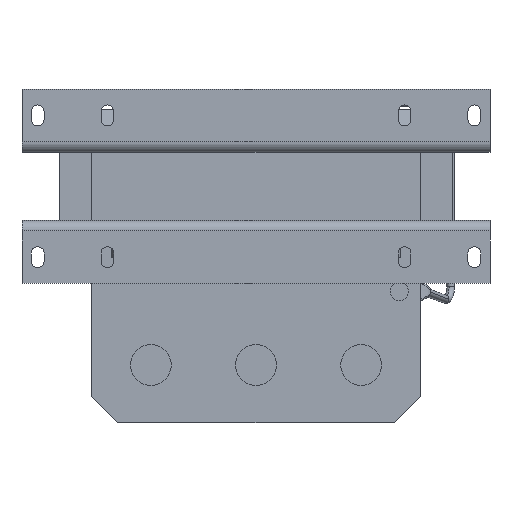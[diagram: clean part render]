
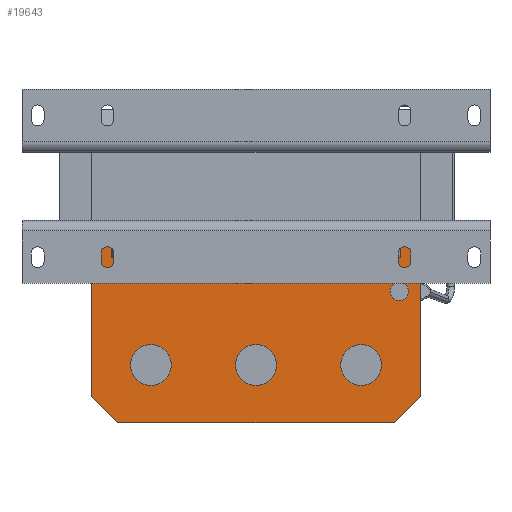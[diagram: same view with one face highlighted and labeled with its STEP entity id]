
A CAD part, front view. The second image highlights one B-rep face of the part: STEP entity #19643.
In plain terms, the highlighted planar face has unit normal (0, -1, 0).
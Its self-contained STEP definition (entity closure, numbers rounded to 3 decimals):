
#39 = EDGE_LOOP ( 'NONE', ( #20488, #7409 ) ) ;
#225 = CARTESIAN_POINT ( 'NONE',  ( 62.5, 27., -18.95 ) ) ;
#327 = CARTESIAN_POINT ( 'NONE',  ( 0., 27., -75.7 ) ) ;
#616 = FACE_BOUND ( 'NONE', #39, .T. ) ;
#878 = DIRECTION ( 'NONE',  ( 0., -1., 0. ) ) ;
#886 = CARTESIAN_POINT ( 'NONE',  ( 54.5, 27., -39.95 ) ) ;
#1084 = CARTESIAN_POINT ( 'NONE',  ( -62.5, 27., -79.95 ) ) ;
#1093 = CARTESIAN_POINT ( 'NONE',  ( 52.5, 27., -89.95 ) ) ;
#1337 = CARTESIAN_POINT ( 'NONE',  ( 54.5, 27., -39.95 ) ) ;
#1433 = CARTESIAN_POINT ( 'NONE',  ( 62.5, 27., -14.95 ) ) ;
#1452 = LINE ( 'NONE', #1093, #22521 ) ;
#1473 = CARTESIAN_POINT ( 'NONE',  ( 62.5, 27., -89.95 ) ) ;
#1637 = CIRCLE ( 'NONE', #12747, 3.5 ) ;
#1688 = DIRECTION ( 'NONE',  ( 0., 0., 1. ) ) ;
#1690 = CIRCLE ( 'NONE', #15071, 7.75 ) ;
#1792 = AXIS2_PLACEMENT_3D ( 'NONE', #20529, #13445, #17396 ) ;
#1977 = CIRCLE ( 'NONE', #18078, 7.75 ) ;
#2140 = CIRCLE ( 'NONE', #21690, 3.5 ) ;
#2283 = FACE_OUTER_BOUND ( 'NONE', #5912, .T. ) ;
#2528 = FACE_BOUND ( 'NONE', #8369, .T. ) ;
#2931 = CARTESIAN_POINT ( 'NONE',  ( 40., 27., -60.2 ) ) ;
#3643 = DIRECTION ( 'NONE',  ( 0.707, 0., -0.707 ) ) ;
#3654 = CIRCLE ( 'NONE', #23199, 7.75 ) ;
#4003 = ORIENTED_EDGE ( 'NONE', *, *, #8204, .F. ) ;
#4184 = VERTEX_POINT ( 'NONE', #15341 ) ;
#4233 = DIRECTION ( 'NONE',  ( 0., 0., 1. ) ) ;
#4281 = VERTEX_POINT ( 'NONE', #327 ) ;
#4578 = DIRECTION ( 'NONE',  ( 0., 0., 1. ) ) ;
#4892 = EDGE_CURVE ( 'NONE', #21038, #11203, #16481, .T. ) ;
#5031 = VERTEX_POINT ( 'NONE', #22583 ) ;
#5745 = CARTESIAN_POINT ( 'NONE',  ( 0., 27., -67.95 ) ) ;
#5912 = EDGE_LOOP ( 'NONE', ( #23182, #9524, #14444, #12553, #6842, #4003 ) ) ;
#6116 = FACE_BOUND ( 'NONE', #9073, .T. ) ;
#6262 = DIRECTION ( 'NONE',  ( 0., -1., 0. ) ) ;
#6802 = DIRECTION ( 'NONE',  ( 0., 0., 1. ) ) ;
#6842 = ORIENTED_EDGE ( 'NONE', *, *, #4892, .T. ) ;
#7147 = EDGE_CURVE ( 'NONE', #4184, #12250, #3654, .T. ) ;
#7409 = ORIENTED_EDGE ( 'NONE', *, *, #7147, .F. ) ;
#8204 = EDGE_CURVE ( 'NONE', #21532, #11203, #17916, .T. ) ;
#8284 = ORIENTED_EDGE ( 'NONE', *, *, #19825, .F. ) ;
#8369 = EDGE_LOOP ( 'NONE', ( #20854, #22488 ) ) ;
#8778 = DIRECTION ( 'NONE',  ( -1., 0., 0. ) ) ;
#9073 = EDGE_LOOP ( 'NONE', ( #13270, #22253 ) ) ;
#9172 = CIRCLE ( 'NONE', #15276, 7.75 ) ;
#9177 = DIRECTION ( 'NONE',  ( 0., 0., -1. ) ) ;
#9261 = EDGE_CURVE ( 'NONE', #23454, #21038, #23438, .T. ) ;
#9383 = CARTESIAN_POINT ( 'NONE',  ( 52.5, 27., -89.95 ) ) ;
#9524 = ORIENTED_EDGE ( 'NONE', *, *, #16504, .F. ) ;
#9569 = VERTEX_POINT ( 'NONE', #20552 ) ;
#9611 = EDGE_CURVE ( 'NONE', #5031, #22024, #1637, .T. ) ;
#9776 = VECTOR ( 'NONE', #8778, 1000. ) ;
#9849 = PLANE ( 'NONE',  #1792 ) ;
#10067 = FACE_BOUND ( 'NONE', #22199, .T. ) ;
#10188 = EDGE_CURVE ( 'NONE', #11246, #11684, #1977, .T. ) ;
#10531 = LINE ( 'NONE', #18092, #20620 ) ;
#11184 = DIRECTION ( 'NONE',  ( 0., 0., 1. ) ) ;
#11194 = CARTESIAN_POINT ( 'NONE',  ( -62.5, 27., -79.95 ) ) ;
#11203 = VERTEX_POINT ( 'NONE', #14931 ) ;
#11246 = VERTEX_POINT ( 'NONE', #21069 ) ;
#11665 = VECTOR ( 'NONE', #9177, 1000. ) ;
#11684 = VERTEX_POINT ( 'NONE', #21741 ) ;
#11864 = CARTESIAN_POINT ( 'NONE',  ( -62.5, 27., -18.95 ) ) ;
#12134 = CIRCLE ( 'NONE', #17876, 7.75 ) ;
#12153 = DIRECTION ( 'NONE',  ( 0., -1., 0. ) ) ;
#12250 = VERTEX_POINT ( 'NONE', #2931 ) ;
#12553 = ORIENTED_EDGE ( 'NONE', *, *, #9261, .T. ) ;
#12664 = EDGE_CURVE ( 'NONE', #22236, #23454, #10531, .T. ) ;
#12747 = AXIS2_PLACEMENT_3D ( 'NONE', #1337, #12153, #4578 ) ;
#13187 = VECTOR ( 'NONE', #14310, 1000. ) ;
#13270 = ORIENTED_EDGE ( 'NONE', *, *, #23680, .F. ) ;
#13351 = CARTESIAN_POINT ( 'NONE',  ( 54.5, 27., -43.45 ) ) ;
#13445 = DIRECTION ( 'NONE',  ( 0., 1., 0. ) ) ;
#13901 = EDGE_CURVE ( 'NONE', #9569, #4281, #12134, .T. ) ;
#13964 = CARTESIAN_POINT ( 'NONE',  ( -62.5, 27., -14.95 ) ) ;
#13989 = CARTESIAN_POINT ( 'NONE',  ( 0., 27., -67.95 ) ) ;
#14310 = DIRECTION ( 'NONE',  ( 0., 0., -1. ) ) ;
#14444 = ORIENTED_EDGE ( 'NONE', *, *, #12664, .T. ) ;
#14931 = CARTESIAN_POINT ( 'NONE',  ( -52.5, 27., -89.95 ) ) ;
#15071 = AXIS2_PLACEMENT_3D ( 'NONE', #15504, #6262, #4233 ) ;
#15276 = AXIS2_PLACEMENT_3D ( 'NONE', #5745, #18126, #1688 ) ;
#15341 = CARTESIAN_POINT ( 'NONE',  ( 40., 27., -75.7 ) ) ;
#15502 = DIRECTION ( 'NONE',  ( 0., 0., 1. ) ) ;
#15504 = CARTESIAN_POINT ( 'NONE',  ( 40., 27., -67.95 ) ) ;
#15724 = EDGE_CURVE ( 'NONE', #12250, #4184, #1690, .T. ) ;
#16481 = LINE ( 'NONE', #11194, #20874 ) ;
#16504 = EDGE_CURVE ( 'NONE', #22236, #22313, #19655, .T. ) ;
#17396 = DIRECTION ( 'NONE',  ( 0., 0., 1. ) ) ;
#17876 = AXIS2_PLACEMENT_3D ( 'NONE', #13989, #23235, #6802 ) ;
#17916 = LINE ( 'NONE', #1473, #9776 ) ;
#17929 = ORIENTED_EDGE ( 'NONE', *, *, #13901, .F. ) ;
#17984 = DIRECTION ( 'NONE',  ( -1., 0., 0. ) ) ;
#18003 = DIRECTION ( 'NONE',  ( 0.707, 0., 0.707 ) ) ;
#18078 = AXIS2_PLACEMENT_3D ( 'NONE', #22609, #19240, #19010 ) ;
#18092 = CARTESIAN_POINT ( 'NONE',  ( 62.5, 27., -18.95 ) ) ;
#18109 = EDGE_CURVE ( 'NONE', #21532, #22313, #1452, .T. ) ;
#18126 = DIRECTION ( 'NONE',  ( 0., -1., 0. ) ) ;
#18497 = CARTESIAN_POINT ( 'NONE',  ( -40., 27., -67.95 ) ) ;
#18684 = EDGE_CURVE ( 'NONE', #22024, #5031, #2140, .T. ) ;
#19010 = DIRECTION ( 'NONE',  ( 0., 0., 1. ) ) ;
#19108 = CARTESIAN_POINT ( 'NONE',  ( 40., 27., -67.95 ) ) ;
#19240 = DIRECTION ( 'NONE',  ( 0., -1., 0. ) ) ;
#19643 = ADVANCED_FACE ( 'NONE', ( #2528, #6116, #10067, #616, #2283 ), #9849, .F. ) ;
#19655 = LINE ( 'NONE', #1433, #11665 ) ;
#19825 = EDGE_CURVE ( 'NONE', #4281, #9569, #9172, .T. ) ;
#20061 = DIRECTION ( 'NONE',  ( 0., -1., 0. ) ) ;
#20488 = ORIENTED_EDGE ( 'NONE', *, *, #15724, .F. ) ;
#20529 = CARTESIAN_POINT ( 'NONE',  ( 62.5, 27., -14.95 ) ) ;
#20547 = CIRCLE ( 'NONE', #20928, 7.75 ) ;
#20552 = CARTESIAN_POINT ( 'NONE',  ( 0., 27., -60.2 ) ) ;
#20620 = VECTOR ( 'NONE', #17984, 1000. ) ;
#20682 = DIRECTION ( 'NONE',  ( 0., -1., 0. ) ) ;
#20854 = ORIENTED_EDGE ( 'NONE', *, *, #9611, .F. ) ;
#20874 = VECTOR ( 'NONE', #3643, 1000. ) ;
#20928 = AXIS2_PLACEMENT_3D ( 'NONE', #18497, #20061, #11184 ) ;
#21038 = VERTEX_POINT ( 'NONE', #1084 ) ;
#21069 = CARTESIAN_POINT ( 'NONE',  ( -40., 27., -75.7 ) ) ;
#21532 = VERTEX_POINT ( 'NONE', #9383 ) ;
#21690 = AXIS2_PLACEMENT_3D ( 'NONE', #886, #20682, #22838 ) ;
#21741 = CARTESIAN_POINT ( 'NONE',  ( -40., 27., -60.2 ) ) ;
#21947 = CARTESIAN_POINT ( 'NONE',  ( 62.5, 27., -79.95 ) ) ;
#22024 = VERTEX_POINT ( 'NONE', #13351 ) ;
#22199 = EDGE_LOOP ( 'NONE', ( #17929, #8284 ) ) ;
#22236 = VERTEX_POINT ( 'NONE', #225 ) ;
#22253 = ORIENTED_EDGE ( 'NONE', *, *, #10188, .F. ) ;
#22313 = VERTEX_POINT ( 'NONE', #21947 ) ;
#22488 = ORIENTED_EDGE ( 'NONE', *, *, #18684, .F. ) ;
#22521 = VECTOR ( 'NONE', #18003, 1000. ) ;
#22583 = CARTESIAN_POINT ( 'NONE',  ( 54.5, 27., -36.45 ) ) ;
#22609 = CARTESIAN_POINT ( 'NONE',  ( -40., 27., -67.95 ) ) ;
#22838 = DIRECTION ( 'NONE',  ( 0., 0., 1. ) ) ;
#23182 = ORIENTED_EDGE ( 'NONE', *, *, #18109, .T. ) ;
#23199 = AXIS2_PLACEMENT_3D ( 'NONE', #19108, #878, #15502 ) ;
#23235 = DIRECTION ( 'NONE',  ( 0., -1., 0. ) ) ;
#23438 = LINE ( 'NONE', #13964, #13187 ) ;
#23454 = VERTEX_POINT ( 'NONE', #11864 ) ;
#23680 = EDGE_CURVE ( 'NONE', #11684, #11246, #20547, .T. ) ;
